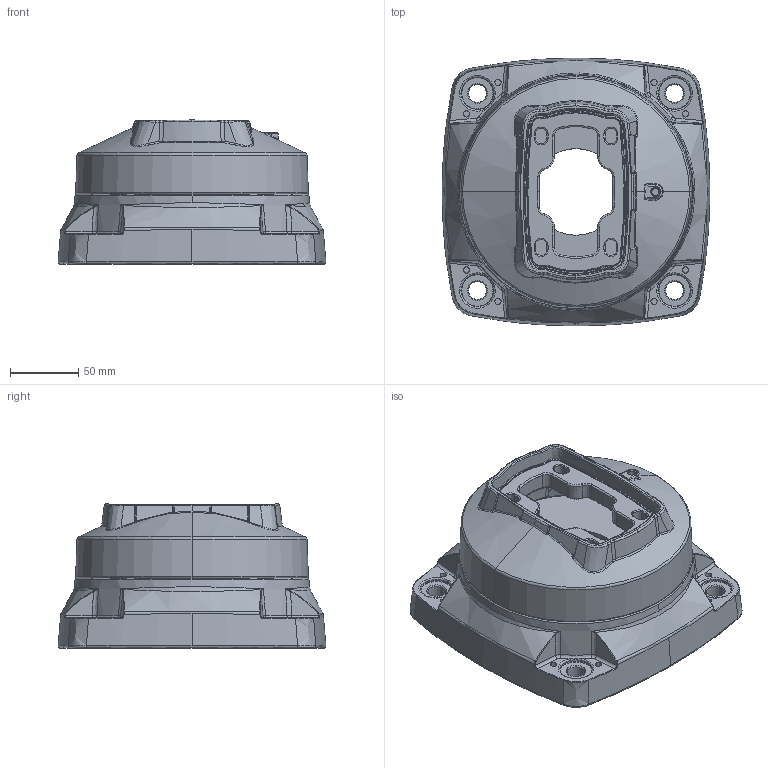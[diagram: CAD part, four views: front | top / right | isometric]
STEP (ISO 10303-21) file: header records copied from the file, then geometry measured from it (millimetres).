
FILE_DESCRIPTION (( 'STEP AP203' ), '1' );
FILE_NAME ('610.STEP', '2016-05-06T11:40:11', ( '' ), ( '' ), 'SwSTEP 2.0', 'SolidWorks 2013', '' );
FILE_SCHEMA (( 'CONFIG_CONTROL_DESIGN' ));
Length unit declared in the file: millimetre
Products named in the file (3): 600_Varsay考an; HP120-008_Varsay考an; 610
Assembly tree (2 placements, depth 2):
  610
    600_Varsay考an
    HP120-008_Varsay考an
Bounding box: 195.72 x 195.72 x 105.25 mm (x, y, z)
Volume: 1680612.6 mm3; surface area: 222506.2 mm2
Topology: 2 solids, 18 shells, 1327 faces, 3127 edges, 1828 vertices
Faces by surface type: bspline 516, cone 278, torus 256, plane 121, cylinder 108, sphere 48
Entity records: 61145 total; most frequent: CARTESIAN_POINT 34366, ORIENTED_EDGE 6166, DIRECTION 4825, EDGE_CURVE 3083, AXIS2_PLACEMENT_3D 2211, VERTEX_POINT 1828, CIRCLE 1395, EDGE_LOOP 1385
